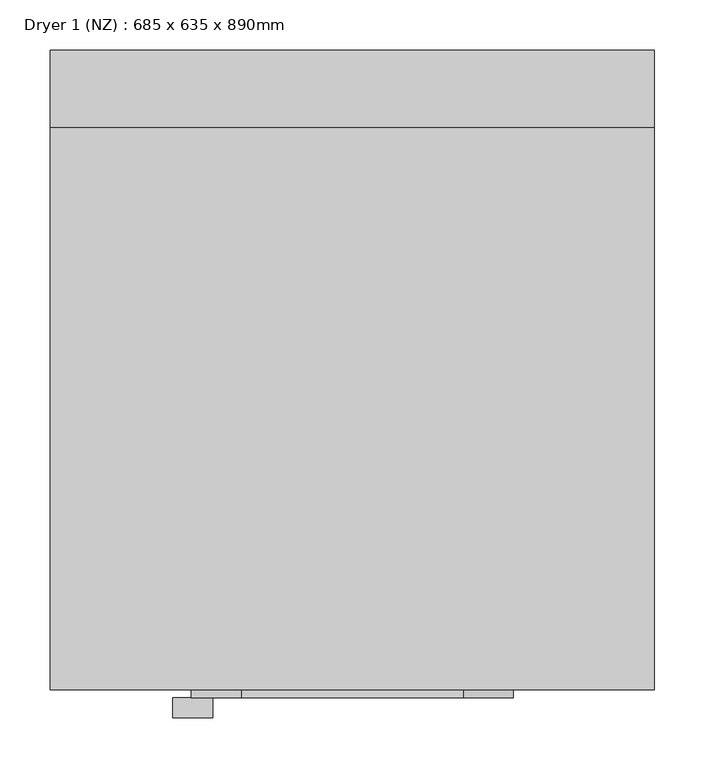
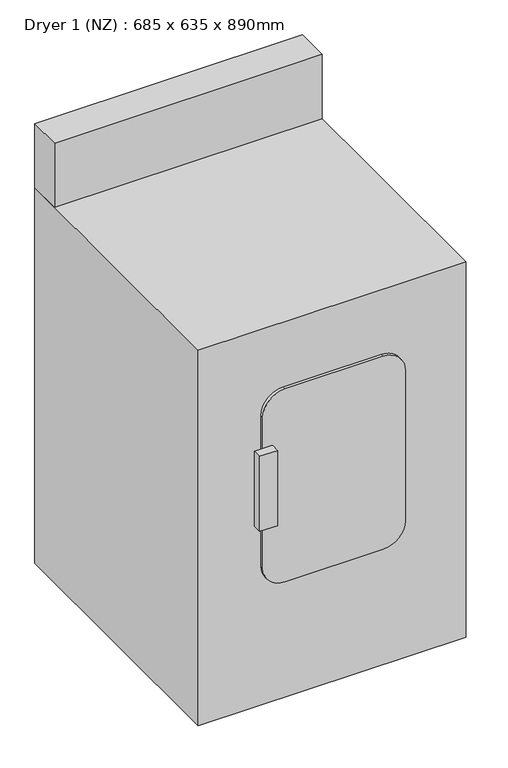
"""IFC4 building model written with IfcOpenShell, lengths in millimetres: proxy geometry, Dryer 1 (NZ) : 685 x 635 x 890mm."""

import ifcopenshell
import ifcopenshell.guid

model = None  # the IFC model being written
_history = None  # IfcOwnerHistory: only IFC2X3 demands one
_inside = {}  # id of a spatial element -> (the spatial element, [elements in it])
_under = {}  # id of a project, library or spatial element -> (it, [spatial elements below it])
_declared = {}  # id of a project -> (the project, [libraries it declares])
_typed = {}  # id of a type object -> (the type object, [elements of that type])
_made_of = {}  # id of a material, layer set ... -> (it, [elements and type objects made of it])


def new_model(schema):
    """Start an empty IFC model of exactly this schema.

    Asked for "IFC4X3", IfcOpenShell would pick the latest addendum, in which some entities
    have other attributes; the version numbers below select the first issue.
    IFC2X3 requires an IfcOwnerHistory on every rooted entity: one is made here for all.
    """
    global model, _history
    if schema == "IFC4X3":
        model = ifcopenshell.file(schema_version=(4, 3, 0, 0))
    else:
        model = ifcopenshell.file(schema=schema)
    _inside.clear()
    _under.clear()
    _declared.clear()
    _typed.clear()
    _made_of.clear()
    _history = None
    if model.schema == "IFC2X3":
        org = make("IfcOrganization", Name="unknown")
        user = make(
            "IfcPersonAndOrganization",
            ThePerson=make("IfcPerson", FamilyName="unknown"),
            TheOrganization=org,
        )
        app = make(
            "IfcApplication",
            ApplicationDeveloper=org,
            Version="unknown",
            ApplicationFullName="unknown",
            ApplicationIdentifier="unknown",
        )
        _history = make(
            "IfcOwnerHistory",
            OwningUser=user,
            OwningApplication=app,
            ChangeAction="ADDED",
            CreationDate=0,
        )
    return model


def make(cls, **values):
    """One entity of the class cls with the attributes given. An attribute that is None is left unset."""
    return model.create_entity(
        cls, **{name: value for name, value in values.items() if value is not None}
    )


def rooted(cls, **values):
    """An entity with a GlobalId (a new one), such as an element, a storey or a relation."""
    return make(cls, GlobalId=ifcopenshell.guid.new(), OwnerHistory=_history, **values)


def si_unit(unit_type, name, prefix=None):
    """IfcSIUnit, for example si_unit("LENGTHUNIT", "METRE", prefix="MILLI")."""
    return make("IfcSIUnit", UnitType=unit_type, Prefix=prefix, Name=name)


def assignment(units):
    """IfcUnitAssignment: the units of a project."""
    return None if units is None else make("IfcUnitAssignment", Units=units)


def point(xyz):
    """IfcCartesianPoint."""
    return None if xyz is None else make("IfcCartesianPoint", Coordinates=xyz)


def direction(xyz):
    """IfcDirection."""
    return None if xyz is None else make("IfcDirection", DirectionRatios=xyz)


def frame(location, z_axis=None, x_axis=None):
    """IfcAxis2Placement3D, a coordinate frame: its origin and axes. An axis left out is left unset."""
    return make(
        "IfcAxis2Placement3D",
        Location=point(location),
        Axis=direction(z_axis),
        RefDirection=direction(x_axis),
    )


def frame_2d(location, x_axis=None):
    """IfcAxis2Placement2D, a coordinate frame in the plane: its origin and x axis."""
    return make(
        "IfcAxis2Placement2D", Location=point(location), RefDirection=direction(x_axis)
    )


def origin():
    """The frame at (0, 0, 0) with its axes left unset."""
    return frame((0.0, 0.0, 0.0))


def origin_with_axes():
    """The frame at (0, 0, 0) with the z axis (0, 0, 1) and the x axis (1, 0, 0) written out."""
    return frame((0.0, 0.0, 0.0), z_axis=(0.0, 0.0, 1.0), x_axis=(1.0, 0.0, 0.0))


def place(relative_to, where):
    """IfcLocalPlacement: puts the frame where relative to a parent placement (None: the world)."""
    return make(
        "IfcLocalPlacement", PlacementRelTo=relative_to, RelativePlacement=where
    )


def context(
    kind, dimensions, precision=None, world=None, true_north=None, identifier=None
):
    """IfcGeometricRepresentationContext, for example the 3D "Model" context."""
    return make(
        "IfcGeometricRepresentationContext",
        ContextIdentifier=identifier,
        ContextType=kind,
        CoordinateSpaceDimension=dimensions,
        Precision=precision,
        WorldCoordinateSystem=world,
        TrueNorth=true_north,
    )


def project(units=None, contexts=None):
    """IfcProject with its units and contexts."""
    return rooted(
        "IfcProject",
        Name="project",
        RepresentationContexts=contexts,
        UnitsInContext=assignment(units),
    )


def spatial(cls, under=None, at=None, **own):
    """A site, building, storey or space (cls), placed at a placement, below another one or the project."""
    s = rooted(cls, ObjectPlacement=at, **own)
    if under is not None:
        _under.setdefault(under.id(), (under, []))[1].append(s)
    return s


def polyline(points):
    """IfcPolyline through the points."""
    return make("IfcPolyline", Points=[point(p) for p in points])


def circle_curve(where, radius):
    """IfcCircle in the frame where."""
    return make("IfcCircle", Position=where, Radius=radius)


def trimmed(basis, trim1, trim2, sense, master):
    """IfcTrimmedCurve: the piece of a basis curve between two trims."""
    return make(
        "IfcTrimmedCurve",
        BasisCurve=basis,
        Trim1=trim1,
        Trim2=trim2,
        SenseAgreement=sense,
        MasterRepresentation=master,
    )


def segment(curve, same_sense, transition):
    """IfcCompositeCurveSegment."""
    return make(
        "IfcCompositeCurveSegment",
        Transition=transition,
        SameSense=same_sense,
        ParentCurve=curve,
    )


def composite_curve(segments, self_intersect=None):
    """IfcCompositeCurve: segments joined end to end."""
    return make("IfcCompositeCurve", Segments=segments, SelfIntersect=self_intersect)


def outline(outer, holes=None, kind="AREA"):
    """IfcArbitraryClosedProfileDef: a profile drawn as a closed curve; with holes, ...WithVoids."""
    if holes is None:
        return make("IfcArbitraryClosedProfileDef", ProfileType=kind, OuterCurve=outer)
    return make(
        "IfcArbitraryProfileDefWithVoids",
        ProfileType=kind,
        OuterCurve=outer,
        InnerCurves=holes,
    )


def extrude(swept, where, along, depth):
    """IfcExtrudedAreaSolid: the profile swept, set in the frame where, extruded along a direction by depth."""
    return make(
        "IfcExtrudedAreaSolid",
        SweptArea=swept,
        Position=where,
        ExtrudedDirection=direction(along),
        Depth=depth,
    )


def shape(context_of_items, identifier, shape_type, items):
    """IfcShapeRepresentation: the items that make up one representation, for example the "Body"."""
    return make(
        "IfcShapeRepresentation",
        ContextOfItems=context_of_items,
        RepresentationIdentifier=identifier,
        RepresentationType=shape_type,
        Items=items,
    )


def source(mapping_origin, context_of_items, identifier, shape_type, items):
    """IfcRepresentationMap: a shape defined once, which mapped items show again and again."""
    return make(
        "IfcRepresentationMap",
        MappingOrigin=mapping_origin,
        MappedRepresentation=shape(context_of_items, identifier, shape_type, items),
    )


def transform(
    local_origin,
    x_axis=None,
    y_axis=None,
    z_axis=None,
    scale=None,
    scale2=None,
    scale3=None,
    uniform=True,
):
    """IfcCartesianTransformationOperator3D, or its non-uniform kind. x_axis, y_axis, z_axis: its Axis1, 2, 3."""
    if uniform:
        return make(
            "IfcCartesianTransformationOperator3D",
            Axis1=direction(x_axis),
            Axis2=direction(y_axis),
            LocalOrigin=point(local_origin),
            Scale=scale,
            Axis3=direction(z_axis),
        )
    return make(
        "IfcCartesianTransformationOperator3DnonUniform",
        Axis1=direction(x_axis),
        Axis2=direction(y_axis),
        LocalOrigin=point(local_origin),
        Scale=scale,
        Axis3=direction(z_axis),
        Scale2=scale2,
        Scale3=scale3,
    )


def mapped(mapping_source, mapping_target):
    """IfcMappedItem: shows the shape of a source again, moved by a transform."""
    return make(
        "IfcMappedItem", MappingSource=mapping_source, MappingTarget=mapping_target
    )


def made_of(thing, what):
    """Note that an element or type object is made of a material, layer set ...; save() writes the relation."""
    if what is not None:
        _made_of.setdefault(what.id(), (what, []))[1].append(thing)
    return thing


def element(
    cls,
    number,
    at=None,
    inside=None,
    cuts=None,
    type_object=None,
    material=None,
    context=None,
    identifier="Body",
    shape_type=None,
    held_by="IfcProductDefinitionShape",
    body=None,
    shapes=None,
    **own,
):
    """One element of the class cls, such as IfcWall. Its Tag is "e" and its number.

    at: its placement. inside: the storey or other place that contains it. cuts: it is an
    opening in that element (IfcRelVoidsElement). A single representation is given by context,
    identifier, shape_type and body (its items); several are given by shapes. held_by: the class
    of the entity that holds the representations. save() writes the other relations.
    """
    e = rooted(cls, Tag="e%d" % number, ObjectPlacement=at, **own)
    if body is not None:
        shapes = [shape(context, identifier, shape_type, body)]
    if shapes is not None:
        e.Representation = make(held_by, Representations=shapes)
    if inside is not None:
        _inside.setdefault(inside.id(), (inside, []))[1].append(e)
    if cuts is not None:
        rooted(
            "IfcRelVoidsElement", RelatingBuildingElement=cuts, RelatedOpeningElement=e
        )
    if type_object is not None:
        _typed.setdefault(type_object.id(), (type_object, []))[1].append(e)
    return made_of(e, material)


def aggregate(whole, parts):
    """IfcRelAggregates: a whole, such as a stair, and the parts it consists of."""
    return rooted("IfcRelAggregates", RelatingObject=whole, RelatedObjects=parts)


def save(model, path):
    """Write the relations noted so far, then the file.

    IfcRelAggregates (storeys below a building ...), IfcRelContainedInSpatialStructure (elements
    in a storey), IfcRelDefinesByType, IfcRelAssociatesMaterial and IfcRelDeclares: one each for
    every whole, place, type object, material and project.
    """
    for whole, parts in _under.values():
        aggregate(whole, parts)
    for where, things in _inside.values():
        rooted(
            "IfcRelContainedInSpatialStructure",
            RelatedElements=things,
            RelatingStructure=where,
        )
    for kind, things in _typed.values():
        rooted("IfcRelDefinesByType", RelatedObjects=things, RelatingType=kind)
    for what, things in _made_of.values():
        rooted("IfcRelAssociatesMaterial", RelatedObjects=things, RelatingMaterial=what)
    for by, libraries in _declared.values():
        rooted("IfcRelDeclares", RelatingContext=by, RelatedDefinitions=libraries)
    model.write(path)


def dryer_1_nz_685_x_635_x_890mm_1b06d572(model_context):
    return source(origin(), model_context, "Body", "SweptSolid", [
        extrude(outline(polyline([(636.0874563, 632.1610038), (636.0874563, 555.9610038), (36.0874563, 555.9610038), (36.0874563, 632.1610038), (636.0874563, 632.1610038)])), frame((0.0, 0.0, 890.0), z_axis=(0.0, 0.0, 1.0), x_axis=(1.0, 0.0, 0.0)), (0.0, 0.0, 1.0), 152.4),
        extrude(outline(polyline([(36.0874563, 632.1610038), (636.0874563, 632.1610038), (636.0874563, -2.8389962), (36.0874563, -2.8389962), (36.0874563, 632.1610038)])), origin_with_axes(), (0.0, 0.0, 1.0), 890.0),
        extrude(outline(polyline([(197.4900641, -30.6589962), (157.4900641, -30.6589962), (157.4900641, -10.7589962), (197.4900641, -10.7589962), (197.4900641, -30.6589962)])), frame((0.0, 0.0, 435.2237077), z_axis=(0.0, 0.0, 1.0), x_axis=(1.0, 0.0, 0.0)), (0.0, 0.0, 1.0), 177.8),
        extrude(outline(composite_curve([segment(polyline([(737.1250241, 446.0874563), (737.1250241, 226.0874563)]), True, "CONTINUOUS"), segment(trimmed(circle_curve(frame_2d((687.1250241, 226.0874563)), 50.0), [point((737.1250241, 226.0874563))], [point((687.1250241, 176.0874563))], False, "CARTESIAN"), True, "CONTINUOUS"), segment(polyline([(687.1250241, 176.0874563), (329.9250241, 176.0874563)]), True, "CONTINUOUS"), segment(trimmed(circle_curve(frame_2d((329.9250241, 226.0874563)), 50.0), [point((329.9250241, 176.0874563))], [point((279.9250241, 226.0874563))], False, "CARTESIAN"), True, "CONTINUOUS"), segment(polyline([(279.9250241, 226.0874563), (279.9250241, 446.0874563)]), True, "CONTINUOUS"), segment(trimmed(circle_curve(frame_2d((329.9250241, 446.0874563)), 50.0), [point((279.9250241, 446.0874563))], [point((329.9250241, 496.0874563))], False, "CARTESIAN"), True, "CONTINUOUS"), segment(polyline([(329.9250241, 496.0874563), (687.1250241, 496.0874563)]), True, "CONTINUOUS"), segment(trimmed(circle_curve(frame_2d((687.1250241, 446.0874563)), 50.0), [point((687.1250241, 496.0874563))], [point((737.1250241, 446.0874563))], False, "CARTESIAN"), True, "CONTINUOUS")], self_intersect=False)), frame((0.0, -10.7589962, 0.0), z_axis=(0.0, 1.0, 0.0), x_axis=(0.0, 0.0, 1.0)), (0.0, 0.0, 1.0), 7.92),
    ])


if __name__ == "__main__":
    model = new_model("IFC4")
    model_context = context("Model", 3, world=origin())
    ifc_project = project(units=[si_unit("LENGTHUNIT", "METRE", prefix="MILLI")], contexts=[model_context])
    site = spatial("IfcSite", under=ifc_project)
    building = spatial("IfcBuilding", under=site)
    placement = place(None, origin())
    dryer_1_nz_685_x_635_x_890mm_shape = dryer_1_nz_685_x_635_x_890mm_1b06d572(model_context)
    element("IfcBuildingElementProxy", 1, Name="Dryer 1 (NZ) : 685 x 635 x 890mm", ObjectType="Dryer 1 (NZ) : 685 x 635 x 890mm", at=placement, inside=building, context=model_context, shape_type="MappedRepresentation", body=[
        mapped(dryer_1_nz_685_x_635_x_890mm_shape, transform((0.0, 0.0, 0.0), x_axis=(1.0, 0.0, 0.0), y_axis=(0.0, 1.0, 0.0), z_axis=(0.0, 0.0, 1.0))),
    ])
    save(model, "model.ifc")
